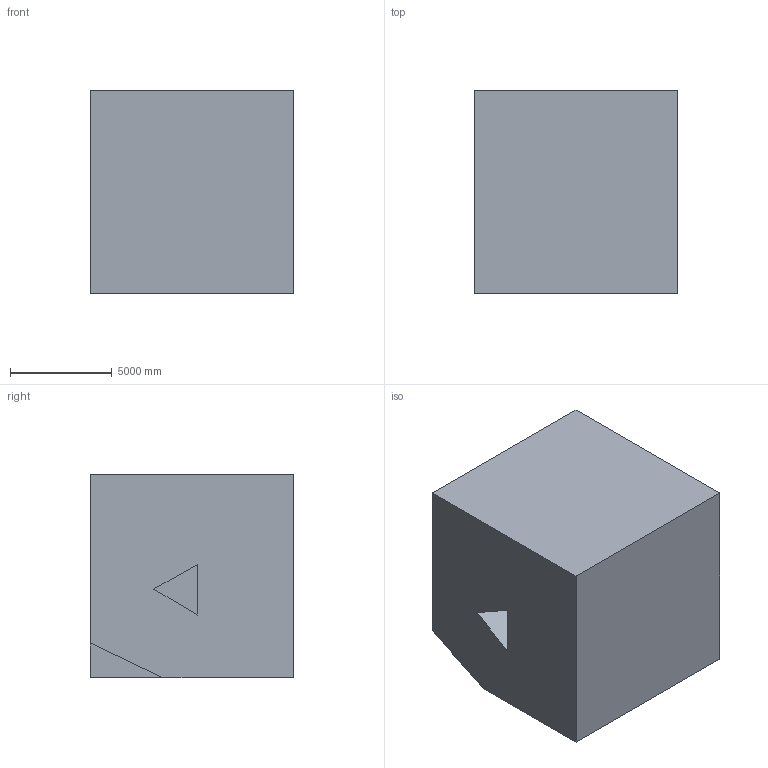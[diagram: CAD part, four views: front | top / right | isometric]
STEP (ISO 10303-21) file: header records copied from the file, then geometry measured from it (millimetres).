
FILE_DESCRIPTION (( 'STEP AP203' ), '1' );
FILE_NAME ('1242.STEP', '2022-08-18T13:21:14', ( 'user' ), ( '' ), 'SwSTEP 2.0', 'SolidWorks 2021', '' );
FILE_SCHEMA (( 'CONFIG_CONTROL_DESIGN' ));
Length unit declared in the file: centimetre
Products named in the file (1): 1242
Bounding box: 10000 x 10000 x 10000 mm (x, y, z)
Volume: 936901916066.8 mm3; surface area: 664793300.9 mm2
Topology: 1 solids, 1 shells, 17 faces, 42 edges, 28 vertices
Faces by surface type: plane 17
Entity records: 573 total; most frequent: CARTESIAN_POINT 88, ORIENTED_EDGE 84, DIRECTION 78, EDGE_CURVE 42, VECTOR 42, LINE 42, VERTEX_POINT 28, AXIS2_PLACEMENT_3D 18
